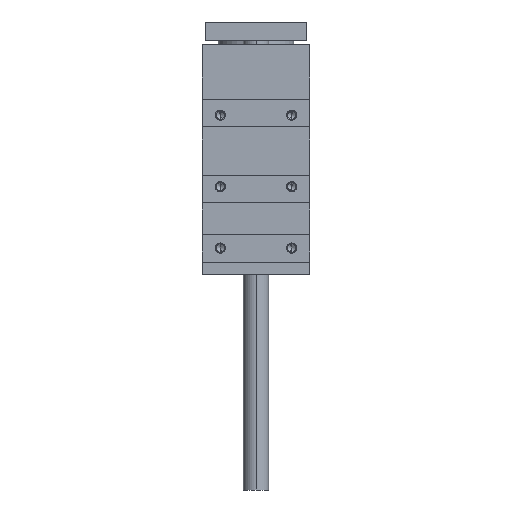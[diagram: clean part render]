
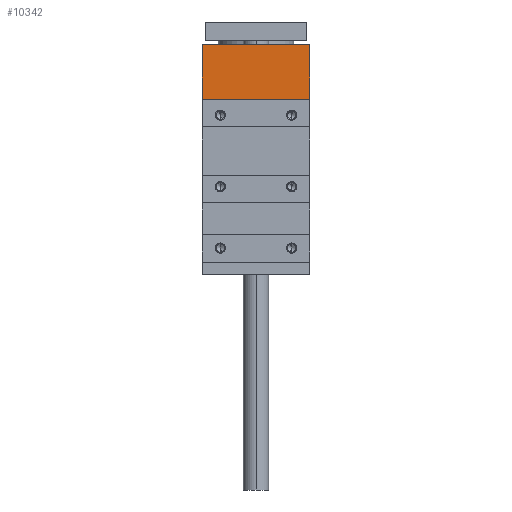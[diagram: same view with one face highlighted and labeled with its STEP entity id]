
A CAD part, left-side view. The second image highlights one B-rep face of the part: STEP entity #10342.
In plain terms, the highlighted planar face has unit normal (-1, 0, 0).
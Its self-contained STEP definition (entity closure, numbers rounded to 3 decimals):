
#682 = EDGE_CURVE ( 'NONE', #5229, #1143, #1856, .T. ) ;
#846 = LINE ( 'NONE', #6399, #9178 ) ;
#1015 = DIRECTION ( 'NONE',  ( 0., 0., -1. ) ) ;
#1143 = VERTEX_POINT ( 'NONE', #9478 ) ;
#1281 = LINE ( 'NONE', #1502, #3001 ) ;
#1381 = CARTESIAN_POINT ( 'NONE',  ( -75.7, -42.5, 71. ) ) ;
#1502 = CARTESIAN_POINT ( 'NONE',  ( -75.7, 85., 71. ) ) ;
#1572 = DIRECTION ( 'NONE',  ( 0., -1., 0. ) ) ;
#1856 = LINE ( 'NONE', #4275, #6691 ) ;
#1968 = VERTEX_POINT ( 'NONE', #10390 ) ;
#2037 = ORIENTED_EDGE ( 'NONE', *, *, #9504, .T. ) ;
#3001 = VECTOR ( 'NONE', #6943, 1000. ) ;
#3039 = DIRECTION ( 'NONE',  ( 0., 1., 0. ) ) ;
#3526 = EDGE_LOOP ( 'NONE', ( #2037, #5812, #6535, #4858 ) ) ;
#3829 = PLANE ( 'NONE',  #4645 ) ;
#4275 = CARTESIAN_POINT ( 'NONE',  ( -75.7, -42.5, 0. ) ) ;
#4645 = AXIS2_PLACEMENT_3D ( 'NONE', #10273, #6213, #3039 ) ;
#4858 = ORIENTED_EDGE ( 'NONE', *, *, #7744, .F. ) ;
#5229 = VERTEX_POINT ( 'NONE', #1381 ) ;
#5788 = VERTEX_POINT ( 'NONE', #6456 ) ;
#5812 = ORIENTED_EDGE ( 'NONE', *, *, #6278, .T. ) ;
#6213 = DIRECTION ( 'NONE',  ( 1., 0., 0. ) ) ;
#6278 = EDGE_CURVE ( 'NONE', #1968, #1143, #9609, .T. ) ;
#6399 = CARTESIAN_POINT ( 'NONE',  ( -75.7, 42.5, 0. ) ) ;
#6456 = CARTESIAN_POINT ( 'NONE',  ( -75.7, 42.5, 71. ) ) ;
#6535 = ORIENTED_EDGE ( 'NONE', *, *, #682, .F. ) ;
#6565 = DIRECTION ( 'NONE',  ( 0., 0., -1. ) ) ;
#6691 = VECTOR ( 'NONE', #1015, 1000. ) ;
#6943 = DIRECTION ( 'NONE',  ( 0., -1., 0. ) ) ;
#7744 = EDGE_CURVE ( 'NONE', #5788, #5229, #1281, .T. ) ;
#8040 = VECTOR ( 'NONE', #1572, 1000. ) ;
#8817 = CARTESIAN_POINT ( 'NONE',  ( -75.7, 85., 28. ) ) ;
#9178 = VECTOR ( 'NONE', #6565, 1000. ) ;
#9429 = FACE_OUTER_BOUND ( 'NONE', #3526, .T. ) ;
#9478 = CARTESIAN_POINT ( 'NONE',  ( -75.7, -42.5, 28. ) ) ;
#9504 = EDGE_CURVE ( 'NONE', #5788, #1968, #846, .T. ) ;
#9609 = LINE ( 'NONE', #8817, #8040 ) ;
#10273 = CARTESIAN_POINT ( 'NONE',  ( -75.7, 85., 28. ) ) ;
#10342 = ADVANCED_FACE ( 'NONE', ( #9429 ), #3829, .F. ) ;
#10390 = CARTESIAN_POINT ( 'NONE',  ( -75.7, 42.5, 28. ) ) ;
